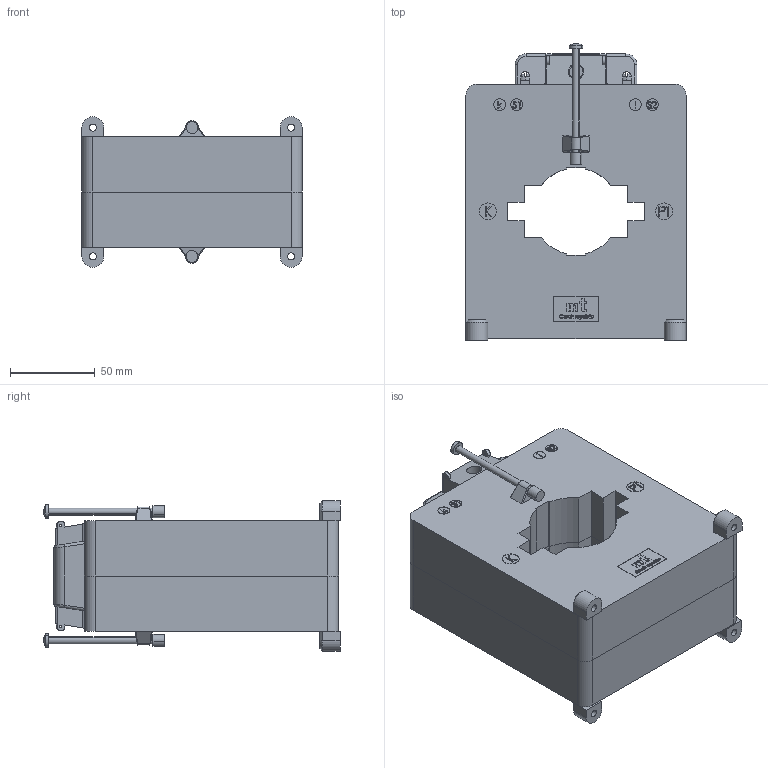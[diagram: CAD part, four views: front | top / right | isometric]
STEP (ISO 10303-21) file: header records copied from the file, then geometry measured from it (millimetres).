
FILE_DESCRIPTION (( 'STEP AP214' ), '1' );
FILE_NAME ('CLA 3.2.STEP', '2024-09-30T19:20:59', ( '' ), ( '' ), 'SwSTEP 2.0', 'SolidWorks 2024', '' );
FILE_SCHEMA (( 'AUTOMOTIVE_DESIGN' ));
Length unit declared in the file: millimetre
Products named in the file (11): Tape label CLA 3.2; Secondary terminal; Screw 4x70; Back plastic case CLA 3.2; CLA 3.2; Screw M5x8; Plastic mounting foot; Secondary terminal cover CLA; Rivet 40; Insulating cap; Front plastic case CLA 3.2
Assembly tree (19 placements, depth 2):
  CLA 3.2
    Front plastic case CLA 3.2
    Back plastic case CLA 3.2
    Tape label CLA 3.2
    Secondary terminal cover CLA
    Plastic mounting foot  x4
    Secondary terminal  x2
    Screw M5x8  x2
    Screw 4x70  x2
    Rivet 40  x3
    Insulating cap  x2
Bounding box: 130 x 175 x 89 mm (x, y, z)
Volume: 1134070.9 mm3; surface area: 152459.8 mm2
Topology: 19 solids, 22 shells, 1389 faces, 3647 edges, 2406 vertices
Faces by surface type: plane 771, bspline 325, cylinder 233, cone 36, sphere 12, torus 12
Entity records: 52624 total; most frequent: CARTESIAN_POINT 24397, ORIENTED_EDGE 6220, DIRECTION 4472, EDGE_CURVE 3110, VERTEX_POINT 2060, LINE 2058, VECTOR 2058, EDGE_LOOP 1296
